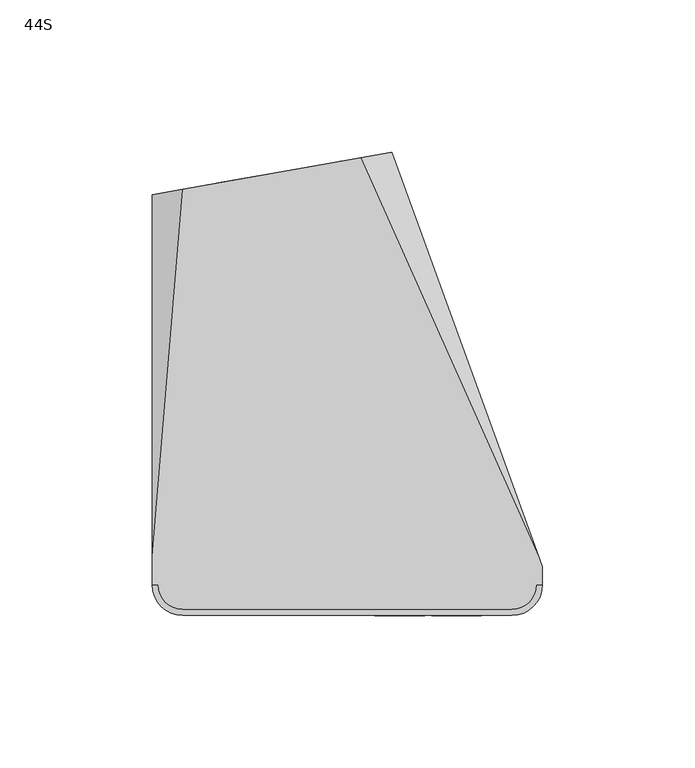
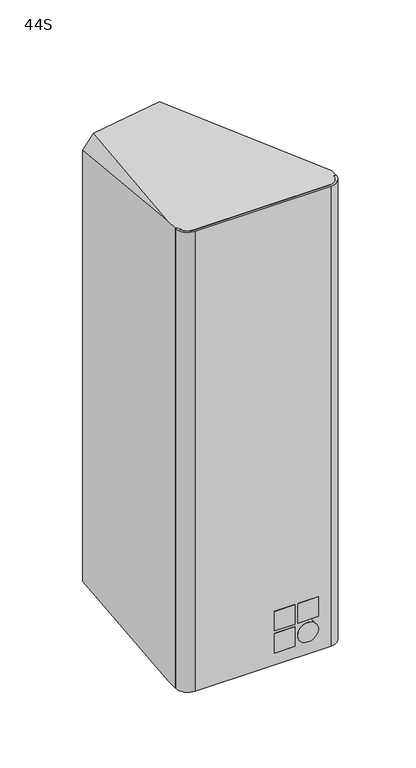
"""IFC4 building model written with IfcOpenShell, lengths in millimetres: proxy geometry, d&b xS-Series 44S Point Source : 44S."""

from ifc_helpers import new_model, si_unit, point, frame, frame_2d, origin, place, context, project, spatial, polyline, circle_curve, ellipse_curve, trimmed, segment, composite_curve, outline, extrude, source, transform, mapped, element, save
from ifc_brep_helpers import plane_surface, cylinder_surface, revolved_surface, advanced_brep


def proxy_44s_2f7ddd4e(model_context):
    return source(origin(), model_context, "Body", "SolidModel", [
        advanced_brep(
        [(-64.0, -66.0, 193.2924342), (-62.0435242, -66.0, 193.2924342), (-54.078429, -73.9650952, 193.4294708), (54.0, -73.9650952, 193.4294708), (62.0, -65.9650952, 193.2918337), (64.0, -65.9650952, 193.2918337), (64.0, -60.0349048, 193.1898069), (62.7855103, -56.6972655, 193.132384), (4.3760941, 74.2148737, 190.8800877), (-54.074657, 63.9084293, 191.0574064), (-64.0, -56.6972655, 193.132384), (-62.0435242, -66.0, -193.2924342), (-64.0, -66.0, -193.2924342), (-64.0, -56.6972655, -193.132384), (-54.074657, 63.9084293, -191.0574064), (4.3760941, 74.2148737, -190.8800877), (62.7855103, -56.6972655, -193.132384), (64.0, -60.0349048, -193.1898069), (64.0, -65.9650952, -193.2918337), (62.0, -65.9650952, -193.2918337), (54.0, -73.9650952, -193.4294708), (-54.078429, -73.9650952, -193.4294708), (-64.0, 62.1583235, 181.3061997), (-64.0, 62.1583235, -181.3061997), (14.5000481, 76.0, -179.9289467), (14.5000481, 76.0, 179.9289467), (-11.9474751, 71.3365881, 138.5), (-37.5524767, 66.8217355, 138.5), (-47.4005542, 65.0852537, 128.5), (-47.4005542, 65.0852537, 51.5), (-37.5524767, 66.8217355, 41.5), (-11.9474751, 71.3365881, 41.5), (-2.0993976, 73.0730698, 51.5), (-2.0993976, 73.0730698, 128.5), (-11.0792343, 66.4125493, 138.5), (-1.2311567, 68.1490311, 128.5), (-1.2311567, 68.1490311, 51.5), (-11.0792343, 66.4125493, 41.5), (-36.6842358, 61.8976967, 41.5), (-46.5323134, 60.1612149, 51.5), (-46.5323134, 60.1612149, 128.5), (-36.6842358, 61.8976967, 138.5)],
        [
            (0, 1),
            (1, 2, ellipse_curve(frame((-54.078429, -66.0, 193.2924342), z_axis=(0.0, 0.017202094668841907, 0.9998520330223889), x_axis=(0.0, -0.999852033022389, 0.017202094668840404)), 7.9662739, 7.9650952)),
            (2, 3),
            (3, 4, ellipse_curve(frame((54.0, -65.9650952, 193.2918337), z_axis=(0.0, 0.017202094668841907, 0.9998520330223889), x_axis=(0.0, -0.999852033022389, 0.017202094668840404)), 8.0011839, 8.0)),
            (4, 5),
            (5, 6),
            (6, 7),
            (7, 8),
            (8, 9),
            (9, 10),
            (10, 0),
            (11, 12),
            (12, 13),
            (13, 14),
            (14, 15),
            (15, 16),
            (16, 17),
            (17, 18),
            (18, 19),
            (19, 20, ellipse_curve(frame((54.0, -65.9650952, -193.2918337), z_axis=(0.0, 0.017202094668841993, -0.9998520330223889), x_axis=(0.0, 0.999852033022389, 0.017202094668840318)), 8.0011839, 8.0)),
            (20, 21),
            (21, 11, ellipse_curve(frame((-54.078429, -66.0, -193.2924342), z_axis=(0.0, 0.017202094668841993, -0.9998520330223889), x_axis=(0.0, 0.999852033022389, 0.017202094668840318)), 7.9662739, 7.9650952)),
            (0, 12),
            (11, 1),
            (21, 2),
            (20, 3),
            (19, 4),
            (18, 5),
            (17, 6),
            (10, 22),
            (22, 23),
            (23, 13),
            (16, 24),
            (24, 25),
            (25, 7),
            (9, 22),
            (23, 14),
            (15, 24),
            (25, 8),
            (26, 27),
            (27, 28, circle_curve(frame((-37.5524767, 66.8217355, 128.5), z_axis=(0.17364817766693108, -0.9848077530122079, 0.0), x_axis=(0.9848077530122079, 0.17364817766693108, 0.0)), 10.0)),
            (28, 29),
            (29, 30, circle_curve(frame((-37.5524767, 66.8217355, 51.5), z_axis=(0.17364817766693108, -0.9848077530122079, 0.0), x_axis=(0.9848077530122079, 0.17364817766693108, 0.0)), 10.0)),
            (30, 31),
            (31, 32, circle_curve(frame((-11.9474751, 71.3365881, 51.5), z_axis=(0.17364817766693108, -0.9848077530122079, 0.0), x_axis=(0.9848077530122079, 0.17364817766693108, 0.0)), 10.0)),
            (32, 33),
            (33, 26, circle_curve(frame((-11.9474751, 71.3365881, 128.5), z_axis=(0.17364817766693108, -0.9848077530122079, 0.0), x_axis=(0.9848077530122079, 0.17364817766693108, 0.0)), 10.0)),
            (34, 35, circle_curve(frame((-11.0792343, 66.4125493, 128.5), z_axis=(-0.17364817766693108, 0.9848077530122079, 0.0), x_axis=(0.9848077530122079, 0.17364817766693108, 0.0)), 10.0)),
            (35, 36),
            (36, 37, circle_curve(frame((-11.0792343, 66.4125493, 51.5), z_axis=(-0.17364817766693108, 0.9848077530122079, 0.0), x_axis=(0.9848077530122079, 0.17364817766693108, 0.0)), 10.0)),
            (37, 38),
            (38, 39, circle_curve(frame((-36.6842358, 61.8976967, 51.5), z_axis=(-0.17364817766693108, 0.9848077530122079, 0.0), x_axis=(0.9848077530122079, 0.17364817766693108, 0.0)), 10.0)),
            (39, 40),
            (40, 41, circle_curve(frame((-36.6842358, 61.8976967, 128.5), z_axis=(-0.17364817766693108, 0.9848077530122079, 0.0), x_axis=(0.9848077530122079, 0.17364817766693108, 0.0)), 10.0)),
            (41, 34),
            (41, 27),
            (26, 34),
            (40, 28),
            (39, 29),
            (38, 30),
            (37, 31),
            (36, 32),
            (35, 33),
        ],
        [
            plane_surface(frame((100.0, -97.3033587, 193.8309972), z_axis=(0.0, 0.017202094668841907, 0.9998520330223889), x_axis=(-1.0, 0.0, 0.0))),
            plane_surface(frame((100.0, 83.9889493, -190.7119283), z_axis=(0.0, 0.017202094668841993, -0.9998520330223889), x_axis=(-1.0, 0.0, 0.0))),
            plane_surface(frame((-64.0, -66.0, 207.1452552), z_axis=(0.0, -1.0, 0.0), x_axis=(0.0, 0.0, -1.0))),
            cylinder_surface(frame((-54.078429, -66.0, -207.1452552), z_axis=(0.0, 0.0, 1.0), x_axis=(-1.0, 0.0, 0.0)), 7.9650952),
            plane_surface(frame((-54.078429, -73.9650952, 207.1452552), z_axis=(0.0, -1.0, 0.0), x_axis=(0.0, 0.0, -1.0))),
            cylinder_surface(frame((54.0, -65.9650952, -207.1452552), z_axis=(0.0, 0.0, 1.0), x_axis=(-1.0, 0.0, 0.0)), 8.0),
            plane_surface(frame((62.0, -65.9650952, 207.1452552), z_axis=(0.0, -1.0, 0.0), x_axis=(0.0, 0.0, -1.0))),
            plane_surface(frame((64.0, -65.9650952, 207.1452552), z_axis=(1.0, 0.0, 0.0), x_axis=(0.0, 0.0, -1.0))),
            plane_surface(frame((-64.0, -60.0349048, 207.1452552), z_axis=(-1.0, 0.0, 0.0), x_axis=(0.0, 0.0, -1.0))),
            plane_surface(frame((14.5000481, 76.0, 0.0), z_axis=(0.9397208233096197, 0.3419426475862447, 0.0), x_axis=(0.0, 0.0, 1.0))),
            plane_surface(frame((-57.232233, 76.0, 186.6967137), z_axis=(-0.7053631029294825, 0.07018394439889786, 0.7053631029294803), x_axis=(-0.7071067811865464, 0.0, -0.7071067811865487))),
            plane_surface(frame((-57.232233, 76.0, -186.6967137), z_axis=(-0.7053631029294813, 0.07018394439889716, -0.7053631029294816), x_axis=(0.7071067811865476, 0.0, -0.7071067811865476))),
            plane_surface(frame((7.7322812, 76.0, -186.6967137), z_axis=(0.6719558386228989, 0.31136907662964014, -0.6719558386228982), x_axis=(0.7071067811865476, 0.0, 0.7071067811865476))),
            plane_surface(frame((7.7322812, 76.0, 186.6967137), z_axis=(0.6719558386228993, 0.31136907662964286, 0.6719558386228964), x_axis=(-0.7071067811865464, 0.0, 0.7071067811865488))),
            plane_surface(frame((-81.2585403, 59.1151772, 250.0), z_axis=(-0.1736481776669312, 0.9848077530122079, 0.0), x_axis=(0.0, 0.0, -1.0))),
            plane_surface(frame((-63.1317591, 57.2342848, 138.5), z_axis=(-0.1736481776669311, 0.984807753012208, 0.0), x_axis=(-0.984807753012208, -0.1736481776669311, 0.0))),
            plane_surface(frame((-11.0792343, 66.4125493, 138.5), z_axis=(0.0, 0.0, -1.0), x_axis=(-0.17364817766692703, 0.9848077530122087, 0.0))),
            revolved_surface(polyline([(-26.83615827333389, 63.634178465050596, 128.5), (-27.70439916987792, 68.55821727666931, 128.5)]), (-37.5524767, 66.8217355, 128.5), (0.17364817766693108, -0.9848077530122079, 0.0)),
            plane_surface(frame((-46.5323134, 60.1612149, 128.5), z_axis=(0.9848077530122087, 0.17364817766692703, 0.0), x_axis=(-0.17364817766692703, 0.9848077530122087, 0.0))),
            revolved_surface(polyline([(-26.83615827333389, 63.634178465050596, 51.5), (-27.70439916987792, 68.55821727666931, 51.5)]), (-37.5524767, 66.8217355, 51.5), (0.17364817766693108, -0.9848077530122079, 0.0)),
            plane_surface(frame((-36.6842358, 61.8976967, 41.5), z_axis=(0.0, 0.0, 1.0), x_axis=(-0.17364817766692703, 0.9848077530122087, 0.0))),
            revolved_surface(polyline([(-1.231156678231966, 68.14903109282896, 51.5), (-2.0993975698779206, 73.07306987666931, 51.5)]), (-11.9474751, 71.3365881, 51.5), (0.17364817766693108, -0.9848077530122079, 0.0)),
            plane_surface(frame((-1.2311567, 68.1490311, 51.5), z_axis=(-0.9848077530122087, -0.17364817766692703, 0.0), x_axis=(-0.17364817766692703, 0.9848077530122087, 0.0))),
            revolved_surface(polyline([(-1.231156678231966, 68.14903109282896, 128.5), (-2.0993975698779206, 73.07306987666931, 128.5)]), (-11.9474751, 71.3365881, 128.5), (0.17364817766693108, -0.9848077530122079, 0.0)),
        ],
        [
            (0, [[1, 2, 3, 4, 5, 6, 7, 8, 9, 10, 11]]),
            (1, [[12, 13, 14, 15, 16, 17, 18, 19, 20, 21, 22]]),
            (2, [[23, -12, 24, -1]]),
            (3, [[-24, -22, 25, -2]]),
            (4, [[-25, -21, 26, -3]]),
            (5, [[-26, -20, 27, -4]]),
            (6, [[-27, -19, 28, -5]]),
            (7, [[-28, -18, 29, -6]]),
            (8, [[-23, -11, 30, 31, 32, -13]]),
            (9, [[-29, -17, 33, 34, 35, -7]]),
            (10, [[-30, -10, 36]]),
            (11, [[-32, 37, -14]]),
            (12, [[-33, -16, 38]]),
            (13, [[-35, 39, -8]]),
            (14, [[-31, -36, -9, -39, -34, -38, -15, -37], [40, 41, 42, 43, 44, 45, 46, 47]]),
            (15, [[48, 49, 50, 51, 52, 53, 54, 55]]),
            (16, [[-55, 56, -40, 57]]),
            (17, [[-54, 58, -41, -56]]),
            (18, [[-53, 59, -42, -58]]),
            (19, [[-52, 60, -43, -59]]),
            (20, [[-51, 61, -44, -60]]),
            (21, [[-50, 62, -45, -61]]),
            (22, [[-49, 63, -46, -62]]),
            (23, [[-48, -57, -47, -63]]),
        ],
    ),
        extrude(outline(polyline([(44.0, -76.0), (27.6666667, -76.0), (27.6666667, -71.0), (44.0, -71.0), (44.0, -76.0)])), frame((0.0, 0.0, -164.7978139), z_axis=(0.0, 0.0, 1.0), x_axis=(1.0, 0.0, 0.0)), (0.0, 0.0, 1.0), 16.3333333),
        extrude(outline(polyline([(25.3333333, -76.0), (9.0, -76.0), (9.0, -71.0), (25.3333333, -71.0), (25.3333333, -76.0)])), frame((0.0, 0.0, -164.7978139), z_axis=(0.0, 0.0, 1.0), x_axis=(1.0, 0.0, 0.0)), (0.0, 0.0, 1.0), 16.3333333),
        extrude(outline(polyline([(25.3333333, -76.0), (9.0, -76.0), (9.0, -71.0), (25.3333333, -71.0), (25.3333333, -76.0)])), frame((0.0, 0.0, -183.4644806), z_axis=(0.0, 0.0, 1.0), x_axis=(1.0, 0.0, 0.0)), (0.0, 0.0, 1.0), 16.3333333),
        extrude(outline(composite_curve([segment(trimmed(circle_curve(frame_2d((-175.2978139, 35.8333333)), 8.1666667), [point((-183.4644806, 35.8333333))], [point((-167.1311473, 35.8333333))], False, "CARTESIAN"), True, "CONTINUOUS"), segment(trimmed(circle_curve(frame_2d((-175.2978139, 35.8333333)), 8.1666667), [point((-167.1311473, 35.8333333))], [point((-183.4644806, 35.8333333))], False, "CARTESIAN"), True, "CONTINUOUS")], self_intersect=False)), frame((0.0, -76.0, 0.0), z_axis=(0.0, 1.0, 0.0), x_axis=(0.0, 0.0, 1.0)), (0.0, 0.0, 1.0), 5.0),
        advanced_brep(
        [(54.0, -73.9650952, 193.4294708), (-54.078429, -73.9650952, 193.4294708), (-62.0435242, -66.0, 193.2924342), (-64.0, -66.0, 193.2924342), (-54.0, -76.0, 193.4644806), (54.0, -76.0, 193.4644806), (64.0349048, -65.9650952, 193.2918337), (62.0, -65.9650952, 193.2918337), (-54.078429, -73.9650952, -193.4294708), (54.0, -73.9650952, -193.4294708), (62.0, -65.9650952, -193.2918337), (64.0349048, -65.9650952, -193.2918337), (54.0, -76.0, -193.4644806), (-54.0, -76.0, -193.4644806), (-64.0, -66.0, -193.2924342), (-62.0435242, -66.0, -193.2924342)],
        [
            (0, 1),
            (1, 2, ellipse_curve(frame((-54.078429, -66.0, 193.2924342), z_axis=(0.0, -0.017202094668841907, -0.9998520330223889), x_axis=(0.0, 0.999852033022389, -0.017202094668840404)), 7.9662739, 7.9650952)),
            (2, 3),
            (3, 4, ellipse_curve(frame((-54.0, -66.0, 193.2924342), z_axis=(0.0, 0.017202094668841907, 0.9998520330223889), x_axis=(0.0, -0.999852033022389, 0.017202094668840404)), 10.0014799, 10.0)),
            (4, 5),
            (5, 6, ellipse_curve(frame((54.0, -65.9650952, 193.2918337), z_axis=(0.0, 0.017202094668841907, 0.9998520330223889), x_axis=(0.0, -0.999852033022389, 0.017202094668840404)), 10.0363899, 10.0349048)),
            (6, 7),
            (7, 0, ellipse_curve(frame((54.0, -65.9650952, 193.2918337), z_axis=(0.0, -0.017202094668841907, -0.9998520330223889), x_axis=(0.0, 0.999852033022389, -0.017202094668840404)), 8.0011839, 8.0)),
            (8, 9),
            (9, 10, ellipse_curve(frame((54.0, -65.9650952, -193.2918337), z_axis=(0.0, -0.017202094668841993, 0.9998520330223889), x_axis=(0.0, -0.999852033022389, -0.017202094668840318)), 8.0011839, 8.0)),
            (10, 11),
            (11, 12, ellipse_curve(frame((54.0, -65.9650952, -193.2918337), z_axis=(0.0, 0.017202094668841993, -0.9998520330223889), x_axis=(0.0, 0.999852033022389, 0.017202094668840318)), 10.0363899, 10.0349048)),
            (12, 13),
            (13, 14, ellipse_curve(frame((-54.0, -66.0, -193.2924342), z_axis=(0.0, 0.017202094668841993, -0.9998520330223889), x_axis=(0.0, 0.999852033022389, 0.017202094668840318)), 10.0014799, 10.0)),
            (14, 15),
            (15, 8, ellipse_curve(frame((-54.078429, -66.0, -193.2924342), z_axis=(0.0, -0.017202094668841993, 0.9998520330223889), x_axis=(0.0, -0.999852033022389, -0.017202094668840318)), 7.9662739, 7.9650952)),
            (0, 9),
            (8, 1),
            (15, 2),
            (14, 3),
            (13, 4),
            (12, 5),
            (11, 6),
            (10, 7),
        ],
        [
            plane_surface(frame((100.0, -97.3033587, 193.8309972), z_axis=(0.0, 0.017202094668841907, 0.9998520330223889), x_axis=(-1.0, 0.0, 0.0))),
            plane_surface(frame((100.0, 83.9889493, -190.7119283), z_axis=(0.0, 0.017202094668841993, -0.9998520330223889), x_axis=(-1.0, 0.0, 0.0))),
            plane_surface(frame((54.0, -73.9650952, 202.5), z_axis=(0.0, 1.0, 0.0), x_axis=(0.0, 0.0, -1.0))),
            revolved_surface(polyline([(-46.1133338, -66.0, -193.4294708), (-46.1133338, -66.0, 193.4294708)]), (-54.078429, -66.0, -202.5), (0.0, 0.0, -1.0)),
            plane_surface(frame((-62.0435242, -66.0, 202.5), z_axis=(0.0, 1.0, 0.0), x_axis=(0.0, 0.0, -1.0))),
            cylinder_surface(frame((-54.0, -66.0, -202.5), z_axis=(0.0, 0.0, 1.0), x_axis=(1.0, 0.0, 0.0)), 10.0),
            plane_surface(frame((-54.0, -76.0, 202.5), z_axis=(0.0, -1.0, 0.0), x_axis=(0.0, 0.0, -1.0))),
            cylinder_surface(frame((54.0, -65.9650952, -202.5), z_axis=(0.0, 0.0, 1.0), x_axis=(1.0, 0.0, 0.0)), 10.0349048),
            plane_surface(frame((64.0349048, -65.9650952, 202.5), z_axis=(0.0, 1.0, 0.0), x_axis=(0.0, 0.0, -1.0))),
            revolved_surface(polyline([(62.0, -65.9650952, -193.42947082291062), (62.0, -65.9650952, 193.42947082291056)]), (54.0, -65.9650952, -202.5), (0.0, 0.0, -1.0)),
        ],
        [
            (0, [[1, 2, 3, 4, 5, 6, 7, 8]]),
            (1, [[9, 10, 11, 12, 13, 14, 15, 16]]),
            (2, [[17, -9, 18, -1]]),
            (3, [[-18, -16, 19, -2]]),
            (4, [[-19, -15, 20, -3]]),
            (5, [[-20, -14, 21, -4]]),
            (6, [[-21, -13, 22, -5]]),
            (7, [[-22, -12, 23, -6]]),
            (8, [[-23, -11, 24, -7]]),
            (9, [[-17, -8, -24, -10]]),
        ],
    ),
    ])


if __name__ == "__main__":
    model = new_model("IFC4")
    model_context = context("Model", 3, world=origin())
    ifc_project = project(units=[si_unit("LENGTHUNIT", "METRE", prefix="MILLI")], contexts=[model_context])
    site = spatial("IfcSite", under=ifc_project)
    building = spatial("IfcBuilding", under=site)
    placement = place(None, origin())
    proxy_44s_shape = proxy_44s_2f7ddd4e(model_context)
    element("IfcBuildingElementProxy", 1, Name="d&b xS-Series 44S Point Source : 44S", ObjectType="d&b xS-Series 44S Point Source : 44S", at=placement, inside=building, context=model_context, shape_type="MappedRepresentation", body=[
        mapped(proxy_44s_shape, transform((0.0, 0.0, 0.0), x_axis=(1.0, 0.0, 0.0), y_axis=(0.0, 1.0, 0.0), z_axis=(0.0, 0.0, 1.0))),
    ])
    save(model, "model.ifc")
